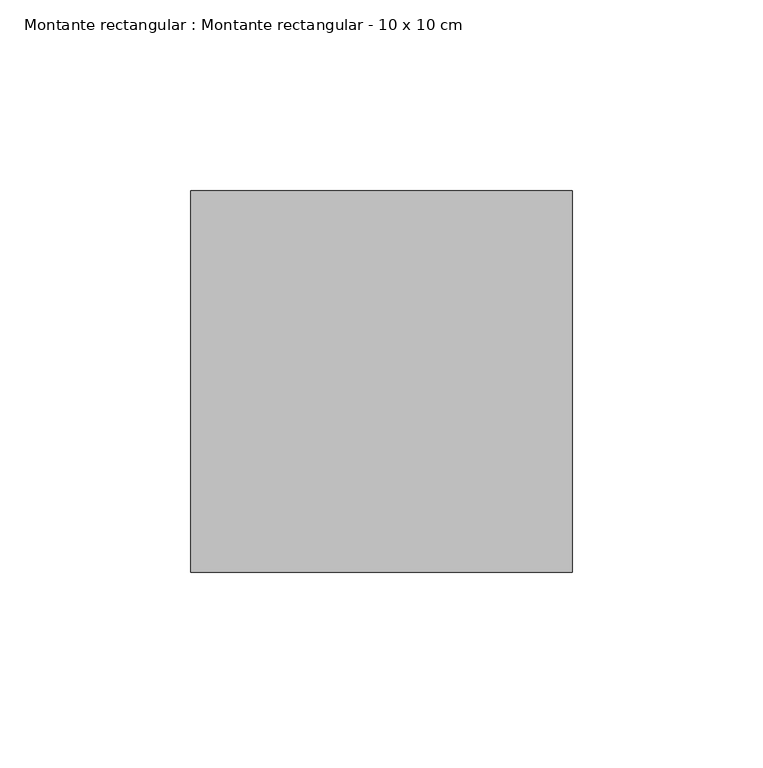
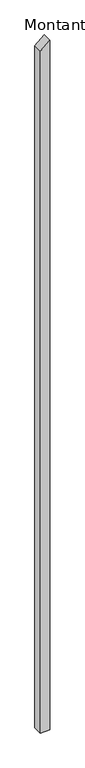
"""IFC4 building model written with IfcOpenShell, lengths in millimetres: member geometry, Montante rectangular : Montante rectangular - 10 x 10 cm."""

from ifc_helpers import new_model, si_unit, frame, origin, place, context, project, spatial, polyline, outline, extrude, source, transform, mapped, element, save


def montante_rectangular_montante_rectangular_10_x_10_cm_2e299aec(model_context):
    return source(origin(), model_context, "Body", "SweptSolid", [
        extrude(outline(polyline([(0.0, 0.0), (-85.243181, -100.0), (-7669.0459434, -100.0), (-7669.0459434, 0.0), (0.0, 0.0)])), frame((0.0, -50.0, 0.0), z_axis=(0.0, 1.0, 0.0), x_axis=(0.0, 0.0, 1.0)), (0.0, 0.0, 1.0), 100.0),
    ])


if __name__ == "__main__":
    model = new_model("IFC4")
    model_context = context("Model", 3, world=origin())
    ifc_project = project(units=[si_unit("LENGTHUNIT", "METRE", prefix="MILLI")], contexts=[model_context])
    site = spatial("IfcSite", under=ifc_project)
    building = spatial("IfcBuilding", under=site)
    placement = place(None, origin())
    montante_rectangular_montante_rectangular_10_x_10_cm_shape = montante_rectangular_montante_rectangular_10_x_10_cm_2e299aec(model_context)
    element("IfcMember", 1, ObjectType="Montante rectangular : Montante rectangular - 10 x 10 cm", at=placement, inside=building, context=model_context, shape_type="MappedRepresentation", body=[
        mapped(montante_rectangular_montante_rectangular_10_x_10_cm_shape, transform((0.0, 0.0, 0.0), x_axis=(1.0, 0.0, 0.0), y_axis=(0.0, 1.0, 0.0), z_axis=(0.0, 0.0, 1.0))),
    ])
    save(model, "model.ifc")
